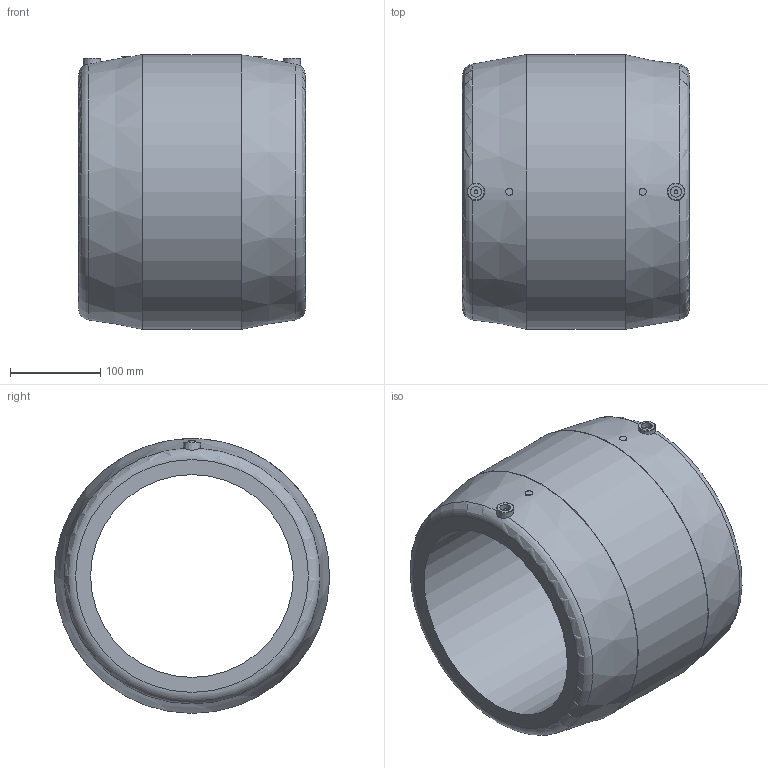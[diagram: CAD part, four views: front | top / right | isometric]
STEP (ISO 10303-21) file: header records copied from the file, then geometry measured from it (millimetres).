
FILE_DESCRIPTION(/* description */ ('Unknown'),/* implementation_level */ '2;1');
FILE_NAME(/* name */ 'MP225H',/* time_stamp */ '2021-05-27T10:52:35+02:00',/* author */ ('Unknown'),/* organization */ ('Unknown'),/* preprocessor_version */ 'ST-DEVELOPER v16.7',/* originating_system */ 'Solid Edge',/* authorisation */ 'Unknown');
FILE_SCHEMA (('AUTOMOTIVE_DESIGN {1 0 10303 214 3 1 1}'));
Length unit declared in the file: millimetre
Products named in the file (1): MP225H
Bounding box: 252 x 305 x 305 mm (x, y, z)
Volume: 7531393 mm3; surface area: 455435.4 mm2
Topology: 1 solids, 1 shells, 28 faces, 59 edges, 39 vertices
Faces by surface type: plane 10, cylinder 8, torus 6, cone 4
Full cylindrical faces by diameter (mm): 4 x2, 8 x2, 12 x2, 225 x1, 305 x1
Entity records: 652 total; most frequent: CARTESIAN_POINT 147, DIRECTION 106, ORIENTED_EDGE 60, EDGE_LOOP 54, FACE_BOUND 54, AXIS2_PLACEMENT_3D 53, EDGE_CURVE 30, VERTEX_POINT 28
